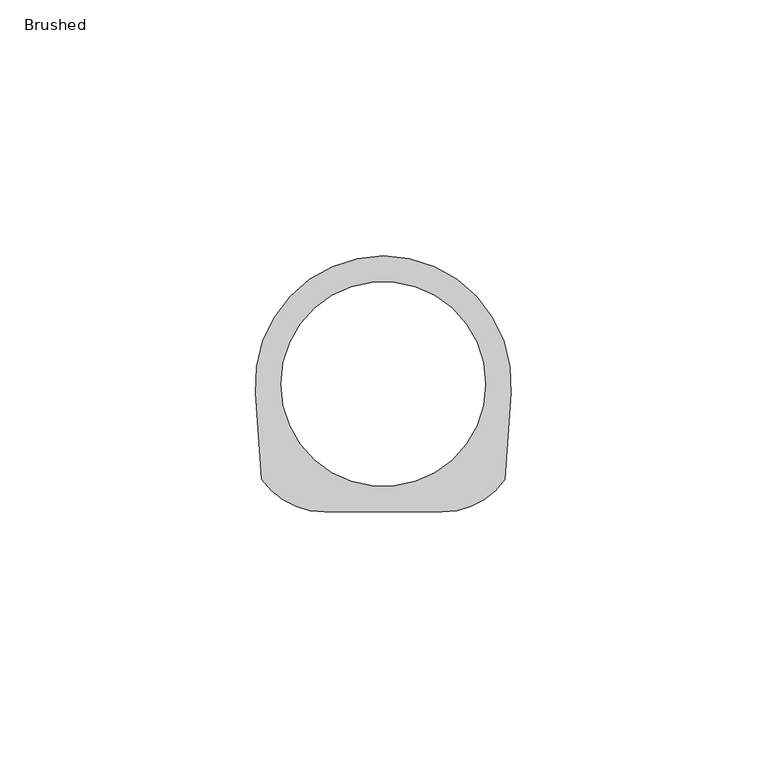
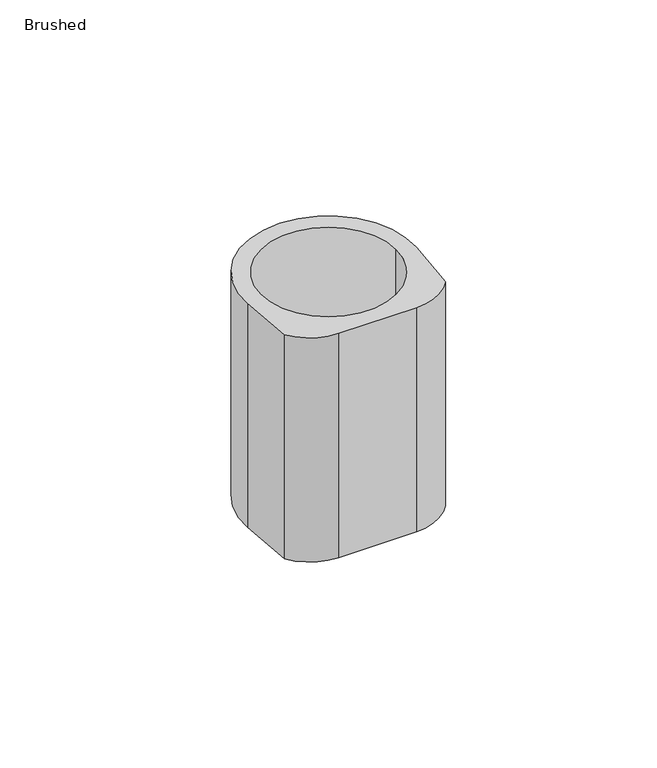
"""IFC4 building model written with IfcOpenShell, lengths in millimetres: flow terminal geometry, z_PlumFixt_Billi_70mm Riser  : Brushed."""

from ifc_helpers import new_model, si_unit, frame, origin, place, context, project, spatial, polyline, circle_curve, source, transform, mapped, element, save
from ifc_brep_helpers import plane_surface, cylinder_surface, revolved_surface, advanced_brep


def brushed_582ad824(model_context):
    return source(origin(), model_context, "Body", "AdvancedBrep", [
        advanced_brep(
        [(-22.7552944, -32.3991443, 70.0), (-10.4999952, -38.7499994, 70.0), (12.4999952, -38.75, 70.0), (24.7552944, -32.3991443, 70.0), (25.9391013, -15.4699176, 70.0), (-23.9391013, -15.4699176, 70.0), (21.0, -13.75, 70.0), (-19.0, -13.75, 70.0), (-22.7552944, -32.3991443, 0.0), (-23.9391013, -15.4699176, 0.0), (25.9391013, -15.4699176, 0.0), (24.7552944, -32.3991443, 0.0), (12.4999952, -38.7499994, 0.0), (-10.4999952, -38.75, 0.0), (21.0, -13.75, 0.0), (-19.0, -13.75, 0.0)],
        [
            (0, 1, circle_curve(frame((-10.4999952, -23.7499942, 70.0), z_axis=(0.0, 0.0, 1.0), x_axis=(-1.0, 0.0, 0.0)), 15.0000053)),
            (1, 2),
            (2, 3, circle_curve(frame((12.4999952, -23.7499942, 70.0), z_axis=(0.0, 0.0, 1.0), x_axis=(-1.0, 0.0, 0.0)), 15.0000053)),
            (3, 4),
            (4, 5, circle_curve(frame((1.0, -13.7260058, 70.0), z_axis=(0.0, 0.0, 1.0), x_axis=(-1.0, 0.0, 0.0)), 25.0)),
            (5, 0),
            (6, 7, circle_curve(frame((1.0, -13.75, 70.0), z_axis=(0.0, 0.0, -1.0), x_axis=(-1.0, 0.0, 0.0)), 20.0)),
            (7, 6, circle_curve(frame((1.0, -13.75, 70.0), z_axis=(0.0, 0.0, -1.0), x_axis=(-1.0, 0.0, 0.0)), 20.0)),
            (8, 9),
            (9, 10, circle_curve(frame((1.0, -13.7260058, 0.0), z_axis=(0.0, 0.0, -1.0), x_axis=(-1.0, 0.0, 0.0)), 25.0)),
            (10, 11),
            (11, 12, circle_curve(frame((12.4999952, -23.7499942, 0.0), z_axis=(0.0, 0.0, -1.0), x_axis=(-1.0, 0.0, 0.0)), 15.0000053)),
            (12, 13),
            (13, 8, circle_curve(frame((-10.4999952, -23.7499942, 0.0), z_axis=(0.0, 0.0, -1.0), x_axis=(-1.0, 0.0, 0.0)), 15.0000053)),
            (14, 15, circle_curve(frame((1.0, -13.75, 0.0), z_axis=(0.0, 0.0, 1.0), x_axis=(-1.0, 0.0, 0.0)), 20.0)),
            (15, 14, circle_curve(frame((1.0, -13.75, 0.0), z_axis=(0.0, 0.0, 1.0), x_axis=(-1.0, 0.0, 0.0)), 20.0)),
            (6, 14),
            (15, 7),
            (0, 8),
            (13, 1),
            (12, 2),
            (11, 3),
            (10, 4),
            (9, 5),
        ],
        [
            plane_surface(frame((-19.0, -13.75, 70.0), z_axis=(0.0, 0.0, 1.0), x_axis=(0.0, 1.0, 0.0))),
            plane_surface(frame((-19.0, -13.75, 0.0), z_axis=(0.0, 0.0, -1.0), x_axis=(0.0, -1.0, 0.0))),
            revolved_surface(polyline([(-19.0, -13.75, 0.0), (-19.0, -13.75, 70.0)]), (1.0, -13.75, 0.0), (0.0, 0.0, -1.0)),
            cylinder_surface(frame((-10.4999952, -23.7499942, 0.0), z_axis=(0.0, 0.0, 1.0), x_axis=(-1.0, 0.0, 0.0)), 15.0000053),
            plane_surface(frame((-10.4999952, -38.75, 70.0), z_axis=(0.0, -1.0, 0.0), x_axis=(0.0, 0.0, -1.0))),
            cylinder_surface(frame((12.4999952, -23.7499942, 0.0), z_axis=(0.0, 0.0, 1.0), x_axis=(-1.0, 0.0, 0.0)), 15.0000053),
            plane_surface(frame((24.7552944, -32.3991443, 70.0), z_axis=(0.9975640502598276, -0.0697564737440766, 0.0), x_axis=(0.0, 0.0, -1.0))),
            cylinder_surface(frame((1.0, -13.7260058, 0.0), z_axis=(0.0, 0.0, 1.0), x_axis=(-1.0, 0.0, 0.0)), 25.0),
            plane_surface(frame((-23.9391013, -15.4699176, 70.0), z_axis=(-0.9975640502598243, -0.06975647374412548, 0.0), x_axis=(0.0, 0.0, -1.0))),
        ],
        [
            (0, [[1, 2, 3, 4, 5, 6], [7, 8]]),
            (1, [[9, 10, 11, 12, 13, 14], [15, 16]]),
            (2, [[-7, 17, -16, 18]]),
            (2, [[-8, -18, -15, -17]]),
            (3, [[-1, 19, -14, 20]]),
            (4, [[-2, -20, -13, 21]]),
            (5, [[-3, -21, -12, 22]]),
            (6, [[-4, -22, -11, 23]]),
            (7, [[-5, -23, -10, 24]]),
            (8, [[-6, -24, -9, -19]]),
        ],
    ),
    ])


if __name__ == "__main__":
    model = new_model("IFC4")
    model_context = context("Model", 3, world=origin())
    ifc_project = project(units=[si_unit("LENGTHUNIT", "METRE", prefix="MILLI")], contexts=[model_context])
    site = spatial("IfcSite", under=ifc_project)
    building = spatial("IfcBuilding", under=site)
    placement = place(None, origin())
    brushed_shape = brushed_582ad824(model_context)
    element("IfcFlowTerminal", 1, ObjectType="z_PlumFixt_Billi_70mm Riser  : Brushed", at=placement, inside=building, context=model_context, shape_type="MappedRepresentation", body=[
        mapped(brushed_shape, transform((0.0, 0.0, 0.0), x_axis=(1.0, 0.0, 0.0), y_axis=(0.0, 1.0, 0.0), z_axis=(0.0, 0.0, 1.0))),
    ])
    save(model, "model.ifc")
